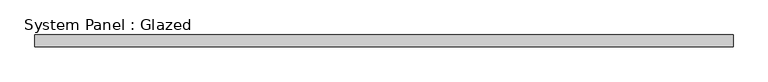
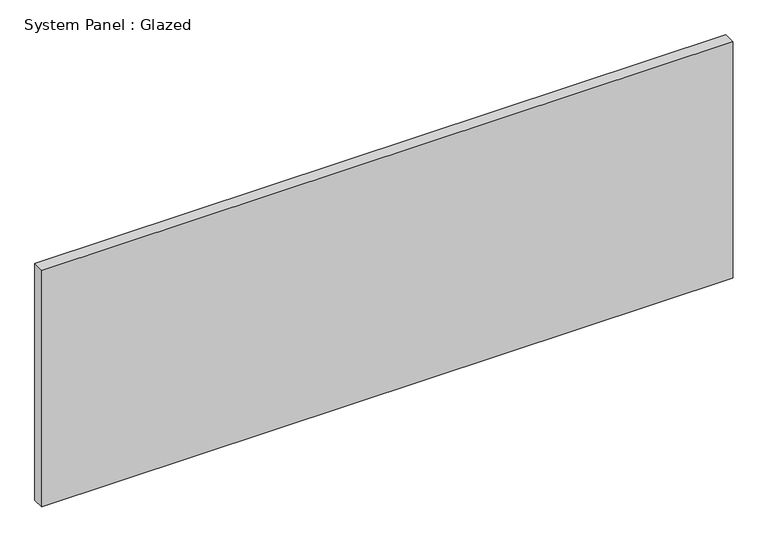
"""IFC4 building model written with IfcOpenShell, lengths in millimetres: plate geometry, System Panel : Glazed."""

from ifc_helpers import new_model, si_unit, origin, origin_with_axes, place, context, project, spatial, polyline, outline, extrude, source, transform, mapped, element, save


def system_panel_glazed_0c7632f4(model_context):
    return source(origin(), model_context, "Body", "SweptSolid", [
        extrude(outline(polyline([(725.0, 24.5), (-725.0, 24.5), (-725.0, 49.5), (725.0, 49.5), (725.0, 24.5)])), origin_with_axes(), (0.0, 0.0, 1.0), 525.0),
    ])


if __name__ == "__main__":
    model = new_model("IFC4")
    model_context = context("Model", 3, world=origin())
    ifc_project = project(units=[si_unit("LENGTHUNIT", "METRE", prefix="MILLI")], contexts=[model_context])
    site = spatial("IfcSite", under=ifc_project)
    building = spatial("IfcBuilding", under=site)
    placement = place(None, origin())
    system_panel_glazed_shape = system_panel_glazed_0c7632f4(model_context)
    element("IfcPlate", 1, ObjectType="System Panel : Glazed", at=placement, inside=building, context=model_context, shape_type="MappedRepresentation", body=[
        mapped(system_panel_glazed_shape, transform((0.0, 0.0, 0.0), x_axis=(1.0, 0.0, 0.0), y_axis=(0.0, 1.0, 0.0), z_axis=(0.0, 0.0, 1.0))),
    ])
    save(model, "model.ifc")
